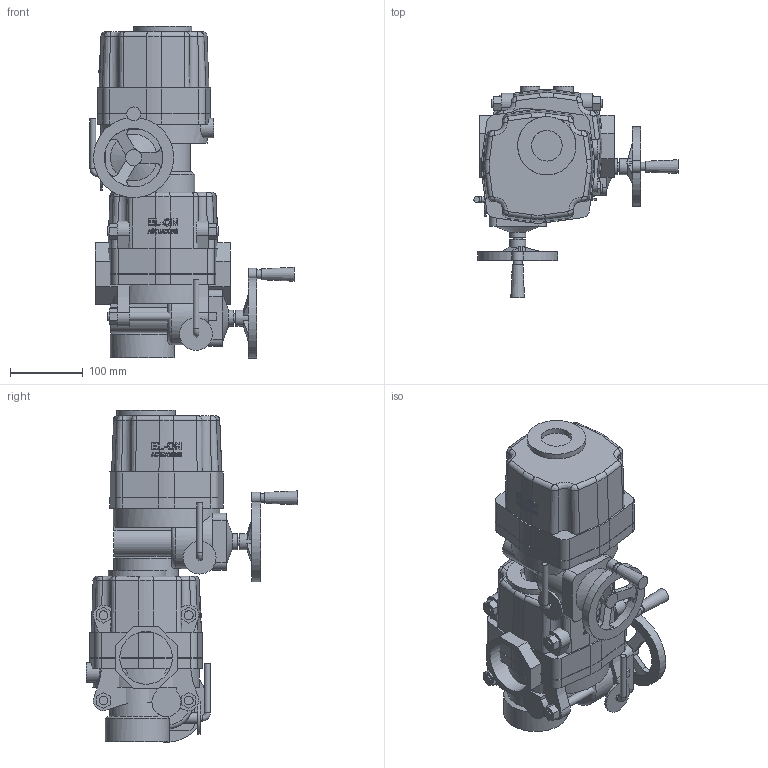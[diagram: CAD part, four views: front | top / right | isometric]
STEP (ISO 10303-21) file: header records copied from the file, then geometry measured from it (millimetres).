
FILE_DESCRIPTION( ( 'Unknown' ), '1' );
FILE_NAME( 'W:/ECCUA/ROOTSI BPS 3D vidinad/Kuulkraanid/Roostevaba kuulkraanid/Ball valve BPS 2420/Ball valve with electric actuator BPS/STEP formaat/BPS 2420065E ball valve DN65.stp', 'Unknown', ( 'Unknown' ), ( 'Unknown' ), 'PSStep 10.1', 'Unknown', ' ' );
FILE_SCHEMA( ( 'AUTOMOTIVE_DESIGN { 1 0 10303 214 1 1 1 1 }' ) );
Length unit declared in the file: millimetre
Products named in the file (3): Assem1; BPS 2420065 ball valve DN65; BPS 8005100 electric actuator DN125 
Bounding box: 280 x 290 x 455.29 mm (x, y, z)
Volume: 10442124.1 mm3; surface area: 862934.7 mm2
Topology: 4 solids, 4 shells, 1162 faces, 2910 edges, 1910 vertices
Faces by surface type: plane 612, cylinder 258, bspline 198, cone 78, torus 16
Full cylindrical faces by diameter (mm): 8 x4, 12 x28, 15 x2, 20 x2, 22 x4, 27 x4, 40 x2, 42 x2, 45 x2, 53 x2, 65 x2, 72.226 x4, 76 x2, 80 x4, 88 x2, 110 x2, 146 x2
Entity records: 34336 total; most frequent: CARTESIAN_POINT 17301, ORIENTED_EDGE 2780, DIRECTION 1988, EDGE_CURVE 1390, VERTEX_POINT 938, AXIS2_PLACEMENT_3D 740, EDGE_LOOP 730, B_SPLINE_CURVE_WITH_KNOTS 627
